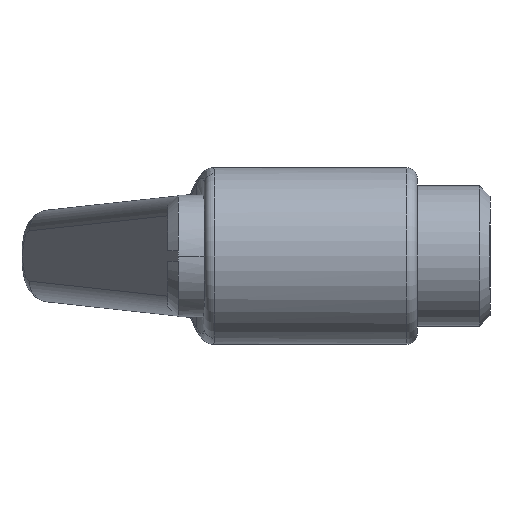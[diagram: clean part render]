
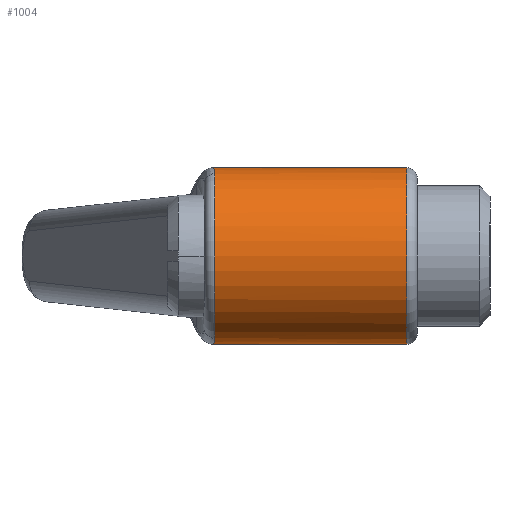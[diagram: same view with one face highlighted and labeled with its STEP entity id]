
A CAD part, left-side view. The second image highlights one B-rep face of the part: STEP entity #1004.
In plain terms, the highlighted cylindrical face has radius 8.5 mm (diameter 17 mm), a partial arc.
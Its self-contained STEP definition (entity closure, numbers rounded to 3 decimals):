
#3 = B_SPLINE_CURVE_WITH_KNOTS ( 'NONE', 3,
 ( #2015, #382, #1374, #695, #447, #29 ),
 .UNSPECIFIED., .F., .F.,
 ( 4, 2, 4 ),
 ( 0.003, 0.005, 0.007 ),
 .UNSPECIFIED. ) ;
#23 = CARTESIAN_POINT ( 'NONE',  ( 0., -1., 0. ) ) ;
#29 = CARTESIAN_POINT ( 'NONE',  ( -3.103, -1., 7.913 ) ) ;
#106 = CARTESIAN_POINT ( 'NONE',  ( 0., 20.5, 0. ) ) ;
#120 = DIRECTION ( 'NONE',  ( 0., 0., -1. ) ) ;
#124 = DIRECTION ( 'NONE',  ( 0., 1., 0. ) ) ;
#132 = CARTESIAN_POINT ( 'NONE',  ( 0., -0.821, 8.5 ) ) ;
#173 = DIRECTION ( 'NONE',  ( 0., -1., 0. ) ) ;
#224 = CARTESIAN_POINT ( 'NONE',  ( 0., 20.5, -8.5 ) ) ;
#248 = EDGE_CURVE ( 'NONE', #1902, #1507, #884, .T. ) ;
#266 = CARTESIAN_POINT ( 'NONE',  ( -2.097, -0.986, -8.254 ) ) ;
#273 = CIRCLE ( 'NONE', #968, 8.5 ) ;
#283 = CIRCLE ( 'NONE', #985, 8.5 ) ;
#379 = DIRECTION ( 'NONE',  ( 0., 0., -1. ) ) ;
#382 = CARTESIAN_POINT ( 'NONE',  ( -0.526, -0.882, 8.5 ) ) ;
#400 = CARTESIAN_POINT ( 'NONE',  ( -1.058, -0.924, -8.438 ) ) ;
#447 = CARTESIAN_POINT ( 'NONE',  ( -2.605, -1., 8.109 ) ) ;
#465 = CARTESIAN_POINT ( 'NONE',  ( -3.103, -1., 7.913 ) ) ;
#574 = CARTESIAN_POINT ( 'NONE',  ( -0.264, -0.851, -8.5 ) ) ;
#587 = VECTOR ( 'NONE', #1625, 1000. ) ;
#614 = LINE ( 'NONE', #819, #587 ) ;
#643 = VECTOR ( 'NONE', #173, 1000. ) ;
#695 = CARTESIAN_POINT ( 'NONE',  ( -2.088, -0.986, 8.257 ) ) ;
#735 = CYLINDRICAL_SURFACE ( 'NONE', #1689, 8.5 ) ;
#752 = FACE_OUTER_BOUND ( 'NONE', #1856, .T. ) ;
#756 = CARTESIAN_POINT ( 'NONE',  ( 0., -19.5, 8.5 ) ) ;
#777 = CARTESIAN_POINT ( 'NONE',  ( 0., -19.5, -8.5 ) ) ;
#819 = CARTESIAN_POINT ( 'NONE',  ( 0., 20.5, 8.5 ) ) ;
#884 = LINE ( 'NONE', #224, #643 ) ;
#939 = CARTESIAN_POINT ( 'NONE',  ( -2.605, -1., -8.109 ) ) ;
#968 = AXIS2_PLACEMENT_3D ( 'NONE', #1130, #124, #1293 ) ;
#985 = AXIS2_PLACEMENT_3D ( 'NONE', #23, #1126, #120 ) ;
#1004 = ADVANCED_FACE ( 'NONE', ( #752 ), #735, .T. ) ;
#1111 = ORIENTED_EDGE ( 'NONE', *, *, #1650, .F. ) ;
#1126 = DIRECTION ( 'NONE',  ( 0., -1., 0. ) ) ;
#1130 = CARTESIAN_POINT ( 'NONE',  ( 0., -19.5, 0. ) ) ;
#1198 = ORIENTED_EDGE ( 'NONE', *, *, #2148, .T. ) ;
#1259 = VERTEX_POINT ( 'NONE', #132 ) ;
#1293 = DIRECTION ( 'NONE',  ( 0., 0., 1. ) ) ;
#1374 = CARTESIAN_POINT ( 'NONE',  ( -1.049, -0.927, 8.452 ) ) ;
#1396 = CARTESIAN_POINT ( 'NONE',  ( 0., -0.821, -8.5 ) ) ;
#1442 = DIRECTION ( 'NONE',  ( 0., -1., 0. ) ) ;
#1464 = CARTESIAN_POINT ( 'NONE',  ( -1.32, -0.942, -8.401 ) ) ;
#1507 = VERTEX_POINT ( 'NONE', #777 ) ;
#1582 = CARTESIAN_POINT ( 'NONE',  ( -3.103, -1., -7.913 ) ) ;
#1601 = ORIENTED_EDGE ( 'NONE', *, *, #2146, .T. ) ;
#1623 = VERTEX_POINT ( 'NONE', #1582 ) ;
#1625 = DIRECTION ( 'NONE',  ( 0., -1., 0. ) ) ;
#1650 = EDGE_CURVE ( 'NONE', #1259, #1859, #614, .T. ) ;
#1671 = CARTESIAN_POINT ( 'NONE',  ( -0.531, -0.878, -8.488 ) ) ;
#1689 = AXIS2_PLACEMENT_3D ( 'NONE', #106, #1442, #379 ) ;
#1702 = ORIENTED_EDGE ( 'NONE', *, *, #2151, .T. ) ;
#1770 = B_SPLINE_CURVE_WITH_KNOTS ( 'NONE', 3,
 ( #2031, #939, #266, #1464, #400, #1671, #574, #1868 ),
 .UNSPECIFIED., .F., .F.,
 ( 4, 2, 2, 4 ),
 ( 0., 0.002, 0.002, 0.003 ),
 .UNSPECIFIED. ) ;
#1856 = EDGE_LOOP ( 'NONE', ( #1111, #1953, #1601, #1198, #1947, #1702 ) ) ;
#1859 = VERTEX_POINT ( 'NONE', #756 ) ;
#1868 = CARTESIAN_POINT ( 'NONE',  ( 0., -0.821, -8.5 ) ) ;
#1902 = VERTEX_POINT ( 'NONE', #1396 ) ;
#1947 = ORIENTED_EDGE ( 'NONE', *, *, #248, .T. ) ;
#1953 = ORIENTED_EDGE ( 'NONE', *, *, #2141, .T. ) ;
#2015 = CARTESIAN_POINT ( 'NONE',  ( 0., -0.821, 8.5 ) ) ;
#2031 = CARTESIAN_POINT ( 'NONE',  ( -3.103, -1., -7.913 ) ) ;
#2107 = VERTEX_POINT ( 'NONE', #465 ) ;
#2141 = EDGE_CURVE ( 'NONE', #1259, #2107, #3, .T. ) ;
#2146 = EDGE_CURVE ( 'NONE', #2107, #1623, #283, .T. ) ;
#2148 = EDGE_CURVE ( 'NONE', #1623, #1902, #1770, .T. ) ;
#2151 = EDGE_CURVE ( 'NONE', #1507, #1859, #273, .T. ) ;
